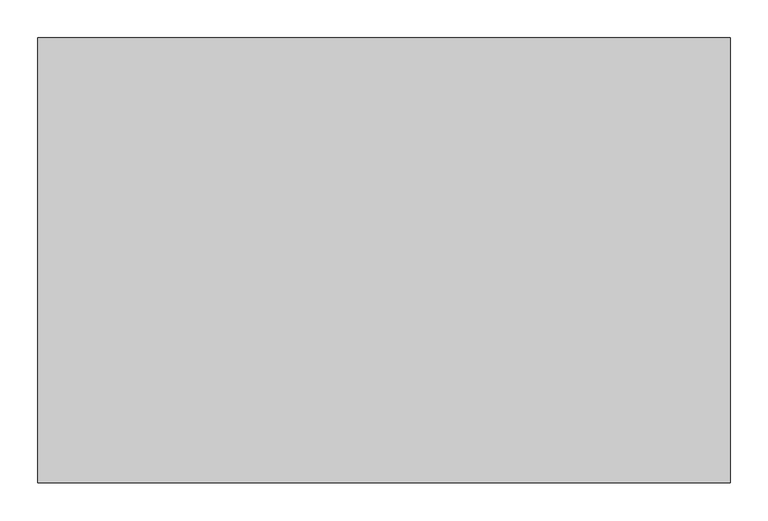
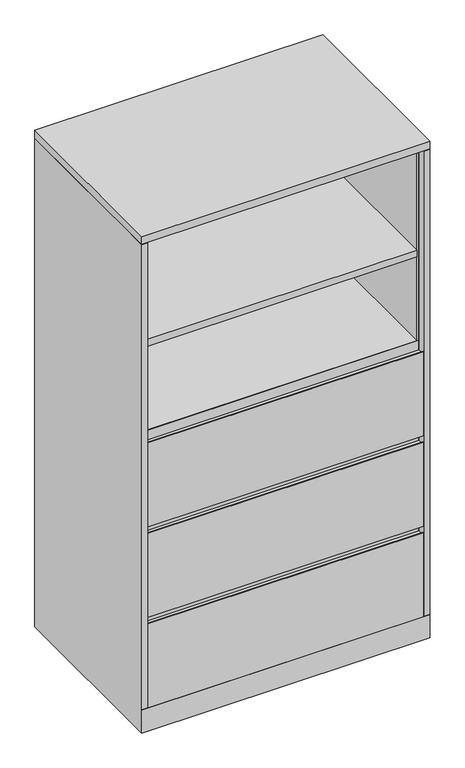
"""IFC4 building model written with IfcOpenShell, lengths in millimetres: furniture geometry, Steelcase - Universal Storage - Cabinet - Combination - Flush Steel : 65 1/2H - 3 Drawers - 23 1/8D x 36W."""

from ifc_helpers import new_model, si_unit, frame, origin, place, context, project, spatial, polyline, outline, extrude, faceted_brep, source, transform, mapped, element, save


def furniture_2e304736(model_context):
    return source(origin(), model_context, "Body", "SolidModel", [
        extrude(outline(polyline([(914.4, 0.0), (914.4, -587.502), (0.0, -587.502), (0.0, 0.0), (914.4, 0.0)])), frame((0.0, 0.0, 1638.2999516), z_axis=(0.0, 0.0, 1.0), x_axis=(1.0, 0.0, 0.0)), (0.0, 0.0, 1.0), 25.4000484),
        extrude(outline(polyline([(-587.502, 358.7750484), (-584.3262491, 358.7750484), (-584.3262491, 349.2500484), (-561.975866, 349.2500484), (-561.975866, 381.0), (-560.4518674, 381.0), (-560.4518674, 349.2500484), (-560.4518674, 77.724), (-587.502, 77.724), (-587.502, 358.7750484)])), frame((20.8280006, 0.0, 0.0), z_axis=(1.0, 0.0, 0.0), x_axis=(0.0, 1.0, 0.0)), (0.0, 0.0, 1.0), 872.7439994),
        extrude(outline(polyline([(889.0000242, -25.4000008), (889.0000242, -560.4518674), (25.4000008, -560.4518674), (25.4000008, -25.4000008), (889.0000242, -25.4000008)])), frame((0.0, 0.0, 358.7750484), z_axis=(0.0, 0.0, 1.0), x_axis=(1.0, 0.0, 0.0)), (0.0, 0.0, 1.0), 22.2249516),
        extrude(outline(polyline([(889.0000242, -25.4000008), (889.0000242, -560.4518674), (25.4000008, -560.4518674), (25.4000008, -25.4000008), (889.0000242, -25.4000008)])), frame((0.0, 0.0, 1268.6030484), z_axis=(0.0, 0.0, 1.0), x_axis=(1.0, 0.0, 0.0)), (0.0, 0.0, 1.0), 22.2249516),
        extrude(outline(polyline([(-587.502, 965.3270484), (-584.3262491, 965.3270484), (-584.3262491, 955.8020484), (-561.975866, 955.8020484), (-561.975866, 987.552), (-560.4518674, 987.552), (-560.4518674, 955.8020484), (-560.4518674, 684.276), (-587.502, 684.276), (-587.502, 965.3270484)])), frame((20.8280006, 0.0, 0.0), z_axis=(1.0, 0.0, 0.0), x_axis=(0.0, 1.0, 0.0)), (0.0, 0.0, 1.0), 872.7439994),
        extrude(outline(polyline([(889.0000242, -25.4000008), (889.0000242, -560.4518674), (25.4000008, -560.4518674), (25.4000008, -25.4000008), (889.0000242, -25.4000008)])), frame((0.0, 0.0, 965.3270484), z_axis=(0.0, 0.0, 1.0), x_axis=(1.0, 0.0, 0.0)), (0.0, 0.0, 1.0), 22.2249516),
        extrude(outline(polyline([(-587.502, 662.0510484), (-584.3262491, 662.0510484), (-584.3262491, 652.5260484), (-561.975866, 652.5260484), (-561.975866, 684.276), (-560.4518674, 684.276), (-560.4518674, 652.5260484), (-560.4518674, 381.0), (-587.502, 381.0), (-587.502, 662.0510484)])), frame((20.8280006, 0.0, 0.0), z_axis=(1.0, 0.0, 0.0), x_axis=(0.0, 1.0, 0.0)), (0.0, 0.0, 1.0), 872.7439994),
        extrude(outline(polyline([(889.0000242, -25.4000008), (889.0000242, -560.4518674), (25.4000008, -560.4518674), (25.4000008, -25.4000008), (889.0000242, -25.4000008)])), frame((0.0, 0.0, 662.0510484), z_axis=(0.0, 0.0, 1.0), x_axis=(1.0, 0.0, 0.0)), (0.0, 0.0, 1.0), 22.2249516),
        faceted_brep([(914.4, 0.0, 0.0), (914.4, -587.502, 0.0), (0.0, -587.502, 0.0), (0.0, 0.0, 0.0), (0.0, 0.0, 1636.776), (914.4, 0.0, 1636.776), (0.0, -587.502, 76.2), (0.0, -587.502, 77.724), (0.0, -587.502, 1636.776), (914.4, -587.502, 76.2), (914.4, -587.502, 1636.776), (914.4, -587.502, 77.724), (889.0000242, -25.4000008, 1636.776), (889.0000242, -560.4518674, 1636.776), (893.572, -560.4518674, 1636.776), (893.572, -561.9758781, 1636.776), (895.096, -561.9758781, 1636.776), (895.096, -587.502, 1636.776), (19.304, -587.502, 1636.776), (19.304, -561.975866, 1636.776), (20.8280006, -561.975866, 1636.776), (20.8280006, -560.4518674, 1636.776), (25.4000008, -560.4518674, 1636.776), (25.4000008, -25.4000008, 1636.776), (19.304, -587.502, 77.724), (19.304, -568.198, 77.724), (895.096, -587.502, 77.724), (895.096, -568.0718418, 77.724), (889.0000242, -25.4000008, 77.724), (889.0000242, -560.4518674, 77.724), (893.572, -560.4518674, 77.724), (893.572, -561.9758781, 77.724), (895.096, -561.9758781, 77.724), (19.304, -561.975866, 77.724), (20.8280006, -561.975866, 77.724), (20.8280006, -560.4518674, 77.724), (25.4000008, -560.4518674, 77.724), (25.4000008, -25.4000008, 77.724), (25.526134, -561.975866, 77.724), (889.0000242, -561.975866, 77.724)], [[[0, 1, 2, 3]], [[0, 3, 4, 5]], [[4, 3, 2, 6, 7, 8]], [[2, 1, 9, 6]], [[1, 0, 5, 10, 11, 9]], [[12, 13, 14, 15, 16, 17, 10, 5, 4, 8, 18, 19, 20, 21, 22, 23]], [[24, 7, 25]], [[11, 26, 27]], [[13, 12, 28, 29]], [[14, 13, 29, 30]], [[15, 14, 30, 31]], [[16, 15, 31, 32]], [[17, 16, 32, 27, 26]], [[10, 17, 26, 11]], [[18, 8, 7, 24]], [[19, 18, 24, 25, 33]], [[20, 19, 33, 34]], [[21, 20, 34, 35]], [[22, 21, 35, 36]], [[23, 22, 36, 37]], [[12, 23, 37, 28]], [[38, 39, 27, 32, 31, 30, 29, 28, 37, 36, 35, 34, 33, 25]], [[7, 6, 38, 25]], [[39, 38, 6, 9]], [[39, 9, 11, 27]]]),
    ])


if __name__ == "__main__":
    model = new_model("IFC4")
    model_context = context("Model", 3, world=origin())
    ifc_project = project(units=[si_unit("LENGTHUNIT", "METRE", prefix="MILLI")], contexts=[model_context])
    site = spatial("IfcSite", under=ifc_project)
    building = spatial("IfcBuilding", under=site)
    placement = place(None, origin())
    furniture_shape = furniture_2e304736(model_context)
    element("IfcFurniture", 1, ObjectType="Steelcase - Universal Storage - Cabinet - Combination - Flush Steel : 65 1/2H - 3 Drawers - 23 1/8D x 36W", at=placement, inside=building, context=model_context, shape_type="MappedRepresentation", body=[
        mapped(furniture_shape, transform((0.0, 0.0, 0.0), x_axis=(1.0, 0.0, 0.0), y_axis=(0.0, 1.0, 0.0), z_axis=(0.0, 0.0, 1.0))),
    ])
    save(model, "model.ifc")
